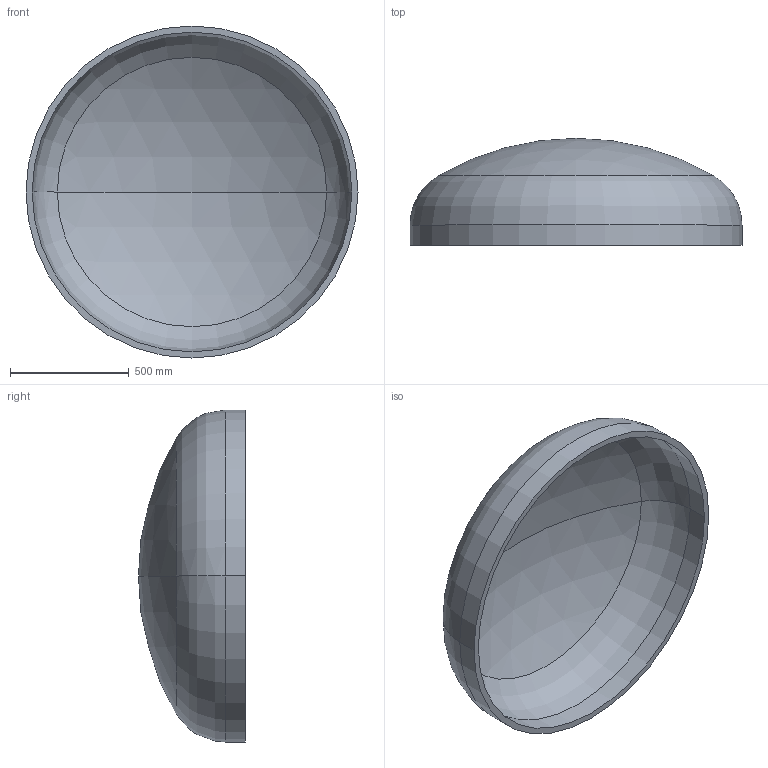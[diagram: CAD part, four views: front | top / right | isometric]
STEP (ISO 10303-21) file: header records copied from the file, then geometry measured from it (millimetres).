
FILE_DESCRIPTION (( 'STEP AP203' ), '1' );
FILE_NAME ('DIN 28013 Korbbogenform_-_Boden DIN 28013 - 1400 x 85 - I - s=26.step', '2016-07-01T10:12:55', ( '' ), ( '' ), 'SwSTEP 2.0', 'SolidWorks 2013', '' );
FILE_SCHEMA (( 'CONFIG_CONTROL_DESIGN' ));
Length unit declared in the file: millimetre
Products named in the file (1): DIN 28013 Korbbogenform_-_Boden DIN 28013 - 1400 x 85 - I - s=26
Bounding box: 1400 x 451.04 x 1400 mm (x, y, z)
Volume: 63602098.8 mm3; surface area: 5006113.6 mm2
Topology: 1 solids, 1 shells, 13 faces, 24 edges, 14 vertices
Faces by surface type: torus 4, cylinder 4, sphere 4, plane 1
Entity records: 407 total; most frequent: DIRECTION 72, CARTESIAN_POINT 52, ORIENTED_EDGE 48, AXIS2_PLACEMENT_3D 34, EDGE_CURVE 24, CIRCLE 20, VERTEX_POINT 14, EDGE_LOOP 14
